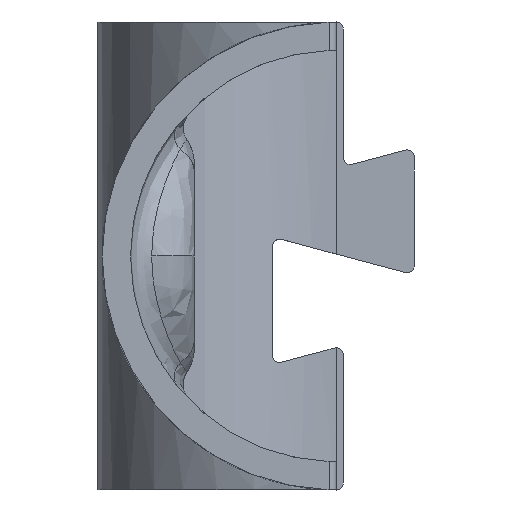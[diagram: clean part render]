
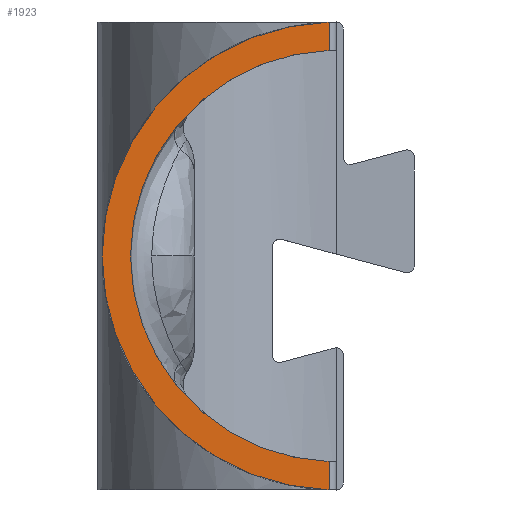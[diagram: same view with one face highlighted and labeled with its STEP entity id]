
A CAD part, left-side view. The second image highlights one B-rep face of the part: STEP entity #1923.
In plain terms, the highlighted planar face has unit normal (-1, 0, 0).
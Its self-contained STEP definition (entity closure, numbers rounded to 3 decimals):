
#39 = EDGE_CURVE ( 'NONE', #2390, #2857, #1639, .T. ) ;
#139 = VECTOR ( 'NONE', #2786, 1000. ) ;
#214 = LINE ( 'NONE', #3324, #139 ) ;
#278 = DIRECTION ( 'NONE',  ( 0., 0., 1. ) ) ;
#372 = CARTESIAN_POINT ( 'NONE',  ( -63.2, 0.5, 0.008 ) ) ;
#454 = AXIS2_PLACEMENT_3D ( 'NONE', #3353, #2002, #2208 ) ;
#549 = CIRCLE ( 'NONE', #1852, 14.5 ) ;
#627 = AXIS2_PLACEMENT_3D ( 'NONE', #1675, #1939, #2196 ) ;
#716 = FACE_OUTER_BOUND ( 'NONE', #1370, .T. ) ;
#728 = ORIENTED_EDGE ( 'NONE', *, *, #2885, .F. ) ;
#788 = ORIENTED_EDGE ( 'NONE', *, *, #2968, .T. ) ;
#1082 = CARTESIAN_POINT ( 'NONE',  ( -63.2, 0.5, 16.5 ) ) ;
#1111 = ORIENTED_EDGE ( 'NONE', *, *, #39, .T. ) ;
#1162 = VERTEX_POINT ( 'NONE', #3446 ) ;
#1233 = EDGE_CURVE ( 'NONE', #1162, #2857, #549, .T. ) ;
#1370 = EDGE_LOOP ( 'NONE', ( #728, #1111, #3155, #788 ) ) ;
#1400 = CARTESIAN_POINT ( 'NONE',  ( -63.2, 0.5, 2.009 ) ) ;
#1574 = DIRECTION ( 'NONE',  ( -1., 0., 0. ) ) ;
#1602 = CARTESIAN_POINT ( 'NONE',  ( -63.2, 0.5, 32.992 ) ) ;
#1639 = LINE ( 'NONE', #1082, #3326 ) ;
#1675 = CARTESIAN_POINT ( 'NONE',  ( -63.2, 0., 16.5 ) ) ;
#1803 = DIRECTION ( 'NONE',  ( 0., 0., -1. ) ) ;
#1852 = AXIS2_PLACEMENT_3D ( 'NONE', #3149, #1574, #1803 ) ;
#1923 = ADVANCED_FACE ( 'NONE', ( #716 ), #2788, .F. ) ;
#1939 = DIRECTION ( 'NONE',  ( 1., 0., 0. ) ) ;
#2002 = DIRECTION ( 'NONE',  ( 1., 0., 0. ) ) ;
#2196 = DIRECTION ( 'NONE',  ( 0., 0., -1. ) ) ;
#2208 = DIRECTION ( 'NONE',  ( 0., 0., -1. ) ) ;
#2390 = VERTEX_POINT ( 'NONE', #372 ) ;
#2745 = VERTEX_POINT ( 'NONE', #1602 ) ;
#2786 = DIRECTION ( 'NONE',  ( 0., 0., 1. ) ) ;
#2788 = PLANE ( 'NONE',  #454 ) ;
#2857 = VERTEX_POINT ( 'NONE', #1400 ) ;
#2885 = EDGE_CURVE ( 'NONE', #2390, #2745, #3219, .T. ) ;
#2968 = EDGE_CURVE ( 'NONE', #1162, #2745, #214, .T. ) ;
#3149 = CARTESIAN_POINT ( 'NONE',  ( -63.2, 0., 16.5 ) ) ;
#3155 = ORIENTED_EDGE ( 'NONE', *, *, #1233, .F. ) ;
#3219 = CIRCLE ( 'NONE', #627, 16.5 ) ;
#3324 = CARTESIAN_POINT ( 'NONE',  ( -63.2, 0.5, 16.5 ) ) ;
#3326 = VECTOR ( 'NONE', #278, 1000. ) ;
#3353 = CARTESIAN_POINT ( 'NONE',  ( -63.2, 0., 16.5 ) ) ;
#3446 = CARTESIAN_POINT ( 'NONE',  ( -63.2, 0.5, 30.991 ) ) ;
